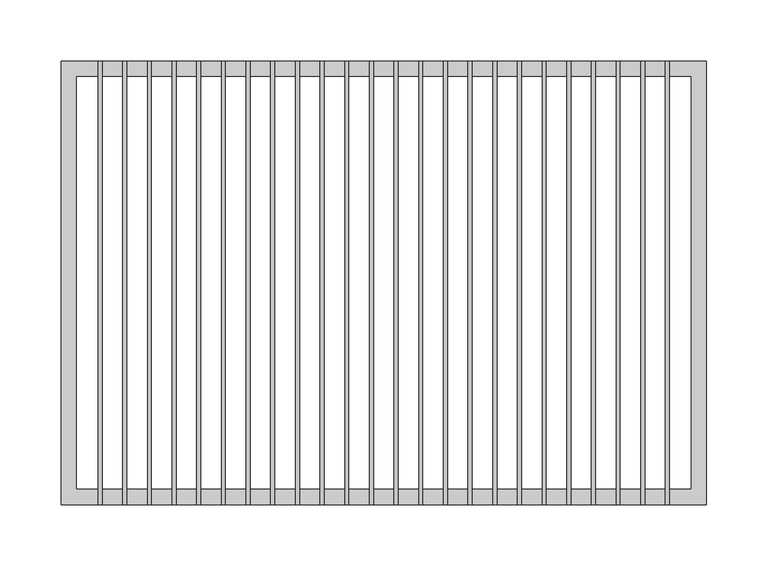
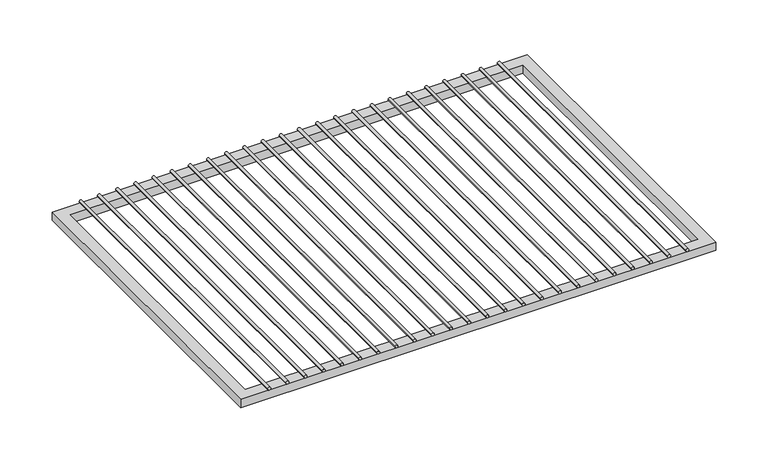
"""IFC4 building model written with IfcOpenShell, lengths in millimetres: furniture geometry, HermanMiller_CoStruc_CO252_CWireShelf : 14D x 20W."""

from ifc_helpers import new_model, si_unit, point, frame, frame_2d, origin, place, context, project, spatial, polyline, circle_curve, trimmed, segment, composite_curve, outline, extrude, source, transform, mapped, element, save


def furniture_1979b876(model_context):
    return source(origin(), model_context, "Body", "SweptSolid", [
        extrude(outline(composite_curve([segment(trimmed(circle_curve(frame_2d((1687.5125, -211.6206522)), 1.5875), [point((1687.5125, -213.2081522))], [point((1687.5125, -210.0331522))], False, "CARTESIAN"), True, "CONTINUOUS"), segment(trimmed(circle_curve(frame_2d((1687.5125, -211.6206522)), 1.5875), [point((1687.5125, -210.0331522))], [point((1687.5125, -213.2081522))], False, "CARTESIAN"), True, "CONTINUOUS")], self_intersect=False)), frame((0.0, -180.975, 0.0), z_axis=(0.0, 1.0, 0.0), x_axis=(0.0, 0.0, 1.0)), (0.0, 0.0, 1.0), 361.95),
        extrude(outline(composite_curve([segment(trimmed(circle_curve(frame_2d((1687.5125, -191.4663043)), 1.5875), [point((1687.5125, -193.0538043))], [point((1687.5125, -189.8788043))], False, "CARTESIAN"), True, "CONTINUOUS"), segment(trimmed(circle_curve(frame_2d((1687.5125, -191.4663043)), 1.5875), [point((1687.5125, -189.8788043))], [point((1687.5125, -193.0538043))], False, "CARTESIAN"), True, "CONTINUOUS")], self_intersect=False)), frame((0.0, -180.975, 0.0), z_axis=(0.0, 1.0, 0.0), x_axis=(0.0, 0.0, 1.0)), (0.0, 0.0, 1.0), 361.95),
        extrude(outline(composite_curve([segment(trimmed(circle_curve(frame_2d((1687.5125, -171.3119565)), 1.5875), [point((1687.5125, -172.8994565))], [point((1687.5125, -169.7244565))], False, "CARTESIAN"), True, "CONTINUOUS"), segment(trimmed(circle_curve(frame_2d((1687.5125, -171.3119565)), 1.5875), [point((1687.5125, -169.7244565))], [point((1687.5125, -172.8994565))], False, "CARTESIAN"), True, "CONTINUOUS")], self_intersect=False)), frame((0.0, -180.975, 0.0), z_axis=(0.0, 1.0, 0.0), x_axis=(0.0, 0.0, 1.0)), (0.0, 0.0, 1.0), 361.95),
        extrude(outline(composite_curve([segment(trimmed(circle_curve(frame_2d((1687.5125, -151.1576087)), 1.5875), [point((1687.5125, -152.7451087))], [point((1687.5125, -149.5701087))], False, "CARTESIAN"), True, "CONTINUOUS"), segment(trimmed(circle_curve(frame_2d((1687.5125, -151.1576087)), 1.5875), [point((1687.5125, -149.5701087))], [point((1687.5125, -152.7451087))], False, "CARTESIAN"), True, "CONTINUOUS")], self_intersect=False)), frame((0.0, -180.975, 0.0), z_axis=(0.0, 1.0, 0.0), x_axis=(0.0, 0.0, 1.0)), (0.0, 0.0, 1.0), 361.95),
        extrude(outline(composite_curve([segment(trimmed(circle_curve(frame_2d((1687.5125, -131.0032609)), 1.5875), [point((1687.5125, -132.5907609))], [point((1687.5125, -129.4157609))], False, "CARTESIAN"), True, "CONTINUOUS"), segment(trimmed(circle_curve(frame_2d((1687.5125, -131.0032609)), 1.5875), [point((1687.5125, -129.4157609))], [point((1687.5125, -132.5907609))], False, "CARTESIAN"), True, "CONTINUOUS")], self_intersect=False)), frame((0.0, -180.975, 0.0), z_axis=(0.0, 1.0, 0.0), x_axis=(0.0, 0.0, 1.0)), (0.0, 0.0, 1.0), 361.95),
        extrude(outline(composite_curve([segment(trimmed(circle_curve(frame_2d((1687.5125, -110.848913)), 1.5875), [point((1687.5125, -112.436413))], [point((1687.5125, -109.261413))], False, "CARTESIAN"), True, "CONTINUOUS"), segment(trimmed(circle_curve(frame_2d((1687.5125, -110.848913)), 1.5875), [point((1687.5125, -109.261413))], [point((1687.5125, -112.436413))], False, "CARTESIAN"), True, "CONTINUOUS")], self_intersect=False)), frame((0.0, -180.975, 0.0), z_axis=(0.0, 1.0, 0.0), x_axis=(0.0, 0.0, 1.0)), (0.0, 0.0, 1.0), 361.95),
        extrude(outline(composite_curve([segment(trimmed(circle_curve(frame_2d((1687.5125, -90.6945652)), 1.5875), [point((1687.5125, -92.2820652))], [point((1687.5125, -89.1070652))], False, "CARTESIAN"), True, "CONTINUOUS"), segment(trimmed(circle_curve(frame_2d((1687.5125, -90.6945652)), 1.5875), [point((1687.5125, -89.1070652))], [point((1687.5125, -92.2820652))], False, "CARTESIAN"), True, "CONTINUOUS")], self_intersect=False)), frame((0.0, -180.975, 0.0), z_axis=(0.0, 1.0, 0.0), x_axis=(0.0, 0.0, 1.0)), (0.0, 0.0, 1.0), 361.95),
        extrude(outline(composite_curve([segment(trimmed(circle_curve(frame_2d((1687.5125, -70.5402174)), 1.5875), [point((1687.5125, -72.1277174))], [point((1687.5125, -68.9527174))], False, "CARTESIAN"), True, "CONTINUOUS"), segment(trimmed(circle_curve(frame_2d((1687.5125, -70.5402174)), 1.5875), [point((1687.5125, -68.9527174))], [point((1687.5125, -72.1277174))], False, "CARTESIAN"), True, "CONTINUOUS")], self_intersect=False)), frame((0.0, -180.975, 0.0), z_axis=(0.0, 1.0, 0.0), x_axis=(0.0, 0.0, 1.0)), (0.0, 0.0, 1.0), 361.95),
        extrude(outline(composite_curve([segment(trimmed(circle_curve(frame_2d((1687.5125, -50.3858696)), 1.5875), [point((1687.5125, -51.9733696))], [point((1687.5125, -48.7983696))], False, "CARTESIAN"), True, "CONTINUOUS"), segment(trimmed(circle_curve(frame_2d((1687.5125, -50.3858696)), 1.5875), [point((1687.5125, -48.7983696))], [point((1687.5125, -51.9733696))], False, "CARTESIAN"), True, "CONTINUOUS")], self_intersect=False)), frame((0.0, -180.975, 0.0), z_axis=(0.0, 1.0, 0.0), x_axis=(0.0, 0.0, 1.0)), (0.0, 0.0, 1.0), 361.95),
        extrude(outline(composite_curve([segment(trimmed(circle_curve(frame_2d((1687.5125, -30.2315217)), 1.5875), [point((1687.5125, -31.8190217))], [point((1687.5125, -28.6440217))], False, "CARTESIAN"), True, "CONTINUOUS"), segment(trimmed(circle_curve(frame_2d((1687.5125, -30.2315217)), 1.5875), [point((1687.5125, -28.6440217))], [point((1687.5125, -31.8190217))], False, "CARTESIAN"), True, "CONTINUOUS")], self_intersect=False)), frame((0.0, -180.975, 0.0), z_axis=(0.0, 1.0, 0.0), x_axis=(0.0, 0.0, 1.0)), (0.0, 0.0, 1.0), 361.95),
        extrude(outline(composite_curve([segment(trimmed(circle_curve(frame_2d((1687.5125, -10.0771739)), 1.5875), [point((1687.5125, -11.6646739))], [point((1687.5125, -8.4896739))], False, "CARTESIAN"), True, "CONTINUOUS"), segment(trimmed(circle_curve(frame_2d((1687.5125, -10.0771739)), 1.5875), [point((1687.5125, -8.4896739))], [point((1687.5125, -11.6646739))], False, "CARTESIAN"), True, "CONTINUOUS")], self_intersect=False)), frame((0.0, -180.975, 0.0), z_axis=(0.0, 1.0, 0.0), x_axis=(0.0, 0.0, 1.0)), (0.0, 0.0, 1.0), 361.95),
        extrude(outline(composite_curve([segment(trimmed(circle_curve(frame_2d((1687.5125, 10.0771739)), 1.5875), [point((1687.5125, 8.4896739))], [point((1687.5125, 11.6646739))], False, "CARTESIAN"), True, "CONTINUOUS"), segment(trimmed(circle_curve(frame_2d((1687.5125, 10.0771739)), 1.5875), [point((1687.5125, 11.6646739))], [point((1687.5125, 8.4896739))], False, "CARTESIAN"), True, "CONTINUOUS")], self_intersect=False)), frame((0.0, -180.975, 0.0), z_axis=(0.0, 1.0, 0.0), x_axis=(0.0, 0.0, 1.0)), (0.0, 0.0, 1.0), 361.95),
        extrude(outline(composite_curve([segment(trimmed(circle_curve(frame_2d((1687.5125, 30.2315217)), 1.5875), [point((1687.5125, 28.6440217))], [point((1687.5125, 31.8190217))], False, "CARTESIAN"), True, "CONTINUOUS"), segment(trimmed(circle_curve(frame_2d((1687.5125, 30.2315217)), 1.5875), [point((1687.5125, 31.8190217))], [point((1687.5125, 28.6440217))], False, "CARTESIAN"), True, "CONTINUOUS")], self_intersect=False)), frame((0.0, -180.975, 0.0), z_axis=(0.0, 1.0, 0.0), x_axis=(0.0, 0.0, 1.0)), (0.0, 0.0, 1.0), 361.95),
        extrude(outline(composite_curve([segment(trimmed(circle_curve(frame_2d((1687.5125, 50.3858696)), 1.5875), [point((1687.5125, 48.7983696))], [point((1687.5125, 51.9733696))], False, "CARTESIAN"), True, "CONTINUOUS"), segment(trimmed(circle_curve(frame_2d((1687.5125, 50.3858696)), 1.5875), [point((1687.5125, 51.9733696))], [point((1687.5125, 48.7983696))], False, "CARTESIAN"), True, "CONTINUOUS")], self_intersect=False)), frame((0.0, -180.975, 0.0), z_axis=(0.0, 1.0, 0.0), x_axis=(0.0, 0.0, 1.0)), (0.0, 0.0, 1.0), 361.95),
        extrude(outline(composite_curve([segment(trimmed(circle_curve(frame_2d((1687.5125, 70.5402174)), 1.5875), [point((1687.5125, 68.9527174))], [point((1687.5125, 72.1277174))], False, "CARTESIAN"), True, "CONTINUOUS"), segment(trimmed(circle_curve(frame_2d((1687.5125, 70.5402174)), 1.5875), [point((1687.5125, 72.1277174))], [point((1687.5125, 68.9527174))], False, "CARTESIAN"), True, "CONTINUOUS")], self_intersect=False)), frame((0.0, -180.975, 0.0), z_axis=(0.0, 1.0, 0.0), x_axis=(0.0, 0.0, 1.0)), (0.0, 0.0, 1.0), 361.95),
        extrude(outline(composite_curve([segment(trimmed(circle_curve(frame_2d((1687.5125, 90.6945652)), 1.5875), [point((1687.5125, 89.1070652))], [point((1687.5125, 92.2820652))], False, "CARTESIAN"), True, "CONTINUOUS"), segment(trimmed(circle_curve(frame_2d((1687.5125, 90.6945652)), 1.5875), [point((1687.5125, 92.2820652))], [point((1687.5125, 89.1070652))], False, "CARTESIAN"), True, "CONTINUOUS")], self_intersect=False)), frame((0.0, -180.975, 0.0), z_axis=(0.0, 1.0, 0.0), x_axis=(0.0, 0.0, 1.0)), (0.0, 0.0, 1.0), 361.95),
        extrude(outline(composite_curve([segment(trimmed(circle_curve(frame_2d((1687.5125, 110.848913)), 1.5875), [point((1687.5125, 109.261413))], [point((1687.5125, 112.436413))], False, "CARTESIAN"), True, "CONTINUOUS"), segment(trimmed(circle_curve(frame_2d((1687.5125, 110.848913)), 1.5875), [point((1687.5125, 112.436413))], [point((1687.5125, 109.261413))], False, "CARTESIAN"), True, "CONTINUOUS")], self_intersect=False)), frame((0.0, -180.975, 0.0), z_axis=(0.0, 1.0, 0.0), x_axis=(0.0, 0.0, 1.0)), (0.0, 0.0, 1.0), 361.95),
        extrude(outline(composite_curve([segment(trimmed(circle_curve(frame_2d((1687.5125, 131.0032609)), 1.5875), [point((1687.5125, 129.4157609))], [point((1687.5125, 132.5907609))], False, "CARTESIAN"), True, "CONTINUOUS"), segment(trimmed(circle_curve(frame_2d((1687.5125, 131.0032609)), 1.5875), [point((1687.5125, 132.5907609))], [point((1687.5125, 129.4157609))], False, "CARTESIAN"), True, "CONTINUOUS")], self_intersect=False)), frame((0.0, -180.975, 0.0), z_axis=(0.0, 1.0, 0.0), x_axis=(0.0, 0.0, 1.0)), (0.0, 0.0, 1.0), 361.95),
        extrude(outline(composite_curve([segment(trimmed(circle_curve(frame_2d((1687.5125, 151.1576087)), 1.5875), [point((1687.5125, 149.5701087))], [point((1687.5125, 152.7451087))], False, "CARTESIAN"), True, "CONTINUOUS"), segment(trimmed(circle_curve(frame_2d((1687.5125, 151.1576087)), 1.5875), [point((1687.5125, 152.7451087))], [point((1687.5125, 149.5701087))], False, "CARTESIAN"), True, "CONTINUOUS")], self_intersect=False)), frame((0.0, -180.975, 0.0), z_axis=(0.0, 1.0, 0.0), x_axis=(0.0, 0.0, 1.0)), (0.0, 0.0, 1.0), 361.95),
        extrude(outline(composite_curve([segment(trimmed(circle_curve(frame_2d((1687.5125, 171.3119565)), 1.5875), [point((1687.5125, 169.7244565))], [point((1687.5125, 172.8994565))], False, "CARTESIAN"), True, "CONTINUOUS"), segment(trimmed(circle_curve(frame_2d((1687.5125, 171.3119565)), 1.5875), [point((1687.5125, 172.8994565))], [point((1687.5125, 169.7244565))], False, "CARTESIAN"), True, "CONTINUOUS")], self_intersect=False)), frame((0.0, -180.975, 0.0), z_axis=(0.0, 1.0, 0.0), x_axis=(0.0, 0.0, 1.0)), (0.0, 0.0, 1.0), 361.95),
        extrude(outline(composite_curve([segment(trimmed(circle_curve(frame_2d((1687.5125, 191.4663043)), 1.5875), [point((1687.5125, 189.8788043))], [point((1687.5125, 193.0538043))], False, "CARTESIAN"), True, "CONTINUOUS"), segment(trimmed(circle_curve(frame_2d((1687.5125, 191.4663043)), 1.5875), [point((1687.5125, 193.0538043))], [point((1687.5125, 189.8788043))], False, "CARTESIAN"), True, "CONTINUOUS")], self_intersect=False)), frame((0.0, -180.975, 0.0), z_axis=(0.0, 1.0, 0.0), x_axis=(0.0, 0.0, 1.0)), (0.0, 0.0, 1.0), 361.95),
        extrude(outline(composite_curve([segment(trimmed(circle_curve(frame_2d((1687.5125, 211.6206522)), 1.5875), [point((1687.5125, 210.0331522))], [point((1687.5125, 213.2081522))], False, "CARTESIAN"), True, "CONTINUOUS"), segment(trimmed(circle_curve(frame_2d((1687.5125, 211.6206522)), 1.5875), [point((1687.5125, 213.2081522))], [point((1687.5125, 210.0331522))], False, "CARTESIAN"), True, "CONTINUOUS")], self_intersect=False)), frame((0.0, -180.975, 0.0), z_axis=(0.0, 1.0, 0.0), x_axis=(0.0, 0.0, 1.0)), (0.0, 0.0, 1.0), 361.95),
        extrude(outline(composite_curve([segment(trimmed(circle_curve(frame_2d((1687.5125, -231.775)), 1.5875), [point((1687.5125, -233.3625))], [point((1687.5125, -230.1875))], False, "CARTESIAN"), True, "CONTINUOUS"), segment(trimmed(circle_curve(frame_2d((1687.5125, -231.775)), 1.5875), [point((1687.5125, -230.1875))], [point((1687.5125, -233.3625))], False, "CARTESIAN"), True, "CONTINUOUS")], self_intersect=False)), frame((0.0, -180.975, 0.0), z_axis=(0.0, 1.0, 0.0), x_axis=(0.0, 0.0, 1.0)), (0.0, 0.0, 1.0), 361.95),
        extrude(outline(composite_curve([segment(trimmed(circle_curve(frame_2d((1687.5125, 231.775)), 1.5875), [point((1687.5125, 230.1875))], [point((1687.5125, 233.3625))], False, "CARTESIAN"), True, "CONTINUOUS"), segment(trimmed(circle_curve(frame_2d((1687.5125, 231.775)), 1.5875), [point((1687.5125, 233.3625))], [point((1687.5125, 230.1875))], False, "CARTESIAN"), True, "CONTINUOUS")], self_intersect=False)), frame((0.0, -180.975, 0.0), z_axis=(0.0, 1.0, 0.0), x_axis=(0.0, 0.0, 1.0)), (0.0, 0.0, 1.0), 361.95),
        extrude(outline(polyline([(-263.525, -180.975), (-263.525, 180.975), (263.525, 180.975), (263.525, -180.975), (-263.525, -180.975)]), holes=[polyline([(-250.825, -168.275), (250.825, -168.275), (250.825, 168.275), (-250.825, 168.275), (-250.825, -168.275)])]), frame((0.0, 0.0, 1676.4), z_axis=(0.0, 0.0, 1.0), x_axis=(1.0, 0.0, 0.0)), (0.0, 0.0, 1.0), 9.525),
    ])


if __name__ == "__main__":
    model = new_model("IFC4")
    model_context = context("Model", 3, world=origin())
    ifc_project = project(units=[si_unit("LENGTHUNIT", "METRE", prefix="MILLI")], contexts=[model_context])
    site = spatial("IfcSite", under=ifc_project)
    building = spatial("IfcBuilding", under=site)
    placement = place(None, origin())
    furniture_shape = furniture_1979b876(model_context)
    element("IfcFurniture", 1, ObjectType="HermanMiller_CoStruc_CO252_CWireShelf : 14D x 20W", at=placement, inside=building, context=model_context, shape_type="MappedRepresentation", body=[
        mapped(furniture_shape, transform((0.0, 0.0, 0.0), x_axis=(1.0, 0.0, 0.0), y_axis=(0.0, 1.0, 0.0), z_axis=(0.0, 0.0, 1.0))),
    ])
    save(model, "model.ifc")
